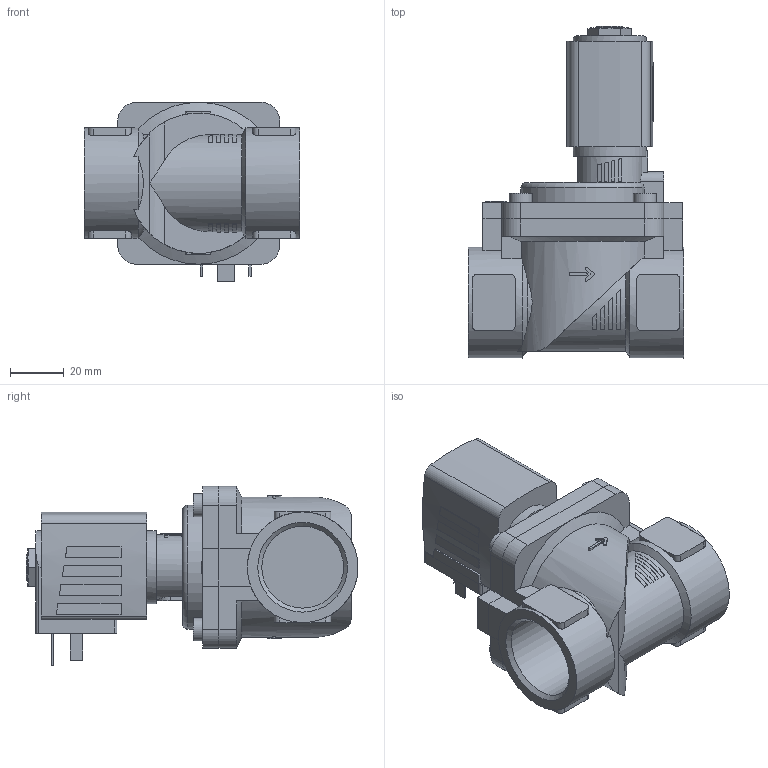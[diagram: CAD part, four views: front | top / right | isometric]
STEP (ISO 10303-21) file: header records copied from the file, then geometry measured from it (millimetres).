
FILE_DESCRIPTION(/* description */ ('STEP AP214'),/* implementation_level */ '2;1');
FILE_NAME(/* name */ '6281-241841-2_2-Way_Solenoid_Valve__Servo-assisted__General_Purpose',/* time_stamp */ '2024-05-27T10:42:46+02:00',/* author */ ('License CC BY-ND 4.0'),/* organization */ ('CADENAS'),/* preprocessor_version */ 'ST-DEVELOPER v19.3',/* originating_system */ 'PARTsolutions',/* authorisation */ ' ');
FILE_SCHEMA (('AUTOMOTIVE_DESIGN {1 0 10303 214 3 1 1}'));
Length unit declared in the file: millimetre
Products named in the file (4): 6281-241841-2/2-Way Solenoid Valve, Servo-assisted, General Purpose; 5281ev200VA2/2-Wege-Magnetventil mit Servomembran-Deckel   ; 6213-20G1MS-Gehaeuse-; AC10ex-5NA38-Plan-Coil
Assembly tree (3 placements, depth 2):
  6281-241841-2/2-Way Solenoid Valve, Servo-assisted, General Purpose
    5281ev200VA2/2-Wege-Magnetventil mit Servomembran-Deckel   
    6213-20G1MS-Gehaeuse-
    AC10ex-5NA38-Plan-Coil
Bounding box: 80 x 123 x 66.5 mm (x, y, z)
Volume: 212345.7 mm3; surface area: 46116.5 mm2
Topology: 3 solids, 3 shells, 336 faces, 847 edges, 559 vertices
Faces by surface type: plane 233, cylinder 87, cone 15, torus 1
Full cylindrical faces by diameter (mm): 2.013 x1, 8.5 x4, 9.74 x1, 27 x1, 30.291 x2, 41 x2
Entity records: 11367 total; most frequent: CARTESIAN_POINT 1997, DIRECTION 1684, ORIENTED_EDGE 1648, EDGE_CURVE 824, AXIS2_PLACEMENT_3D 592, VERTEX_POINT 551, LINE 500, VECTOR 500
